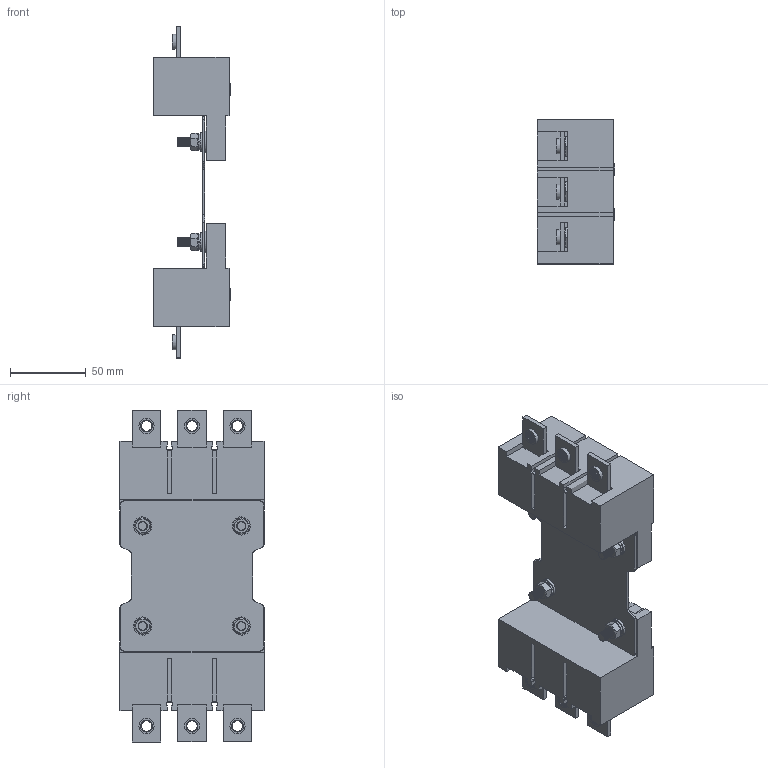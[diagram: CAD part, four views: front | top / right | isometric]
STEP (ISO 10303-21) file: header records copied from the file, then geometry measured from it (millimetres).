
FILE_DESCRIPTION (( 'STEP AP214' ), '1' );
FILE_NAME ('TEM5E-PV-125-160-3P.stp.STEP', '2026-01-14T07:18:05', ( '' ), ( '' ), 'SwSTEP 2.0', 'SolidWorks 2024', '' );
FILE_SCHEMA (( 'AUTOMOTIVE_DESIGN' ));
Length unit declared in the file: millimetre
Products named in the file (1): TEM5E-PV-125-160-3P.stp
Bounding box: 51 x 95 x 219 mm (x, y, z)
Volume: 307166.5 mm3; surface area: 131958.5 mm2
Topology: 1 solids, 97 shells, 1702 faces, 4130 edges, 2546 vertices
Faces by surface type: cone 790, plane 542, cylinder 364, torus 6
Full cylindrical faces by diameter (mm): 5 x4, 5.5 x4, 6 x124, 6.18 x4, 6.2 x6, 6.917 x18, 7 x4, 7.7 x6, 8 x64, 8.2 x6, 8.4 x6, 10 x6, 12 x4, 15 x4
Entity records: 44191 total; most frequent: CARTESIAN_POINT 10159, DIRECTION 7334, ORIENTED_EDGE 5456, AXIS2_PLACEMENT_3D 3095, EDGE_LOOP 2874, EDGE_CURVE 2728, VERTEX_POINT 2176, FACE_OUTER_BOUND 1968
